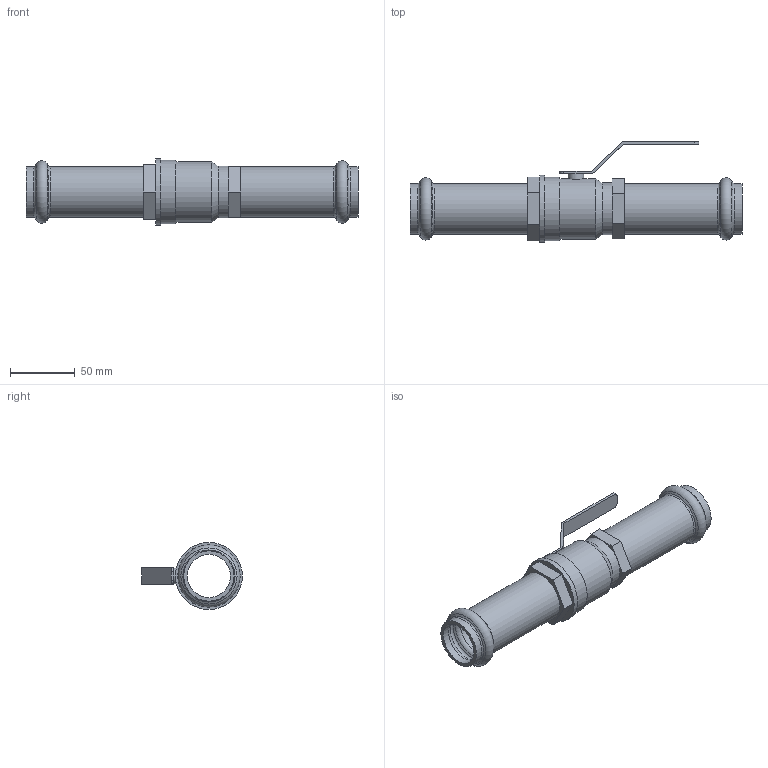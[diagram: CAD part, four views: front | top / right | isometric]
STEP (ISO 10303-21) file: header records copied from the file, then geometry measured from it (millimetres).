
FILE_DESCRIPTION(/* description */ ('VIC-PRESS 304 BRASS BODY BALL VALVE SERIES P589 (P X P)','CAx-IF Rec.Pracs.---Representation and Presentation of Product Manufacturing Information (PMI)---4.0---2014-10-13'),/* implementation_level */ '2;1');
FILE_NAME(/* name */ 'C:\Users\Vjadhav\AppData\Roaming\Autodesk\ApplicationPlugins\Back Up\Victaulic_SS-Vic-Press-TP 304_Valve Ball Brass Body_Series P589 (VP)\Victaulic_SS-Vic-Press-TP 304_Valve Ball Brass Body_Series P589 (VP)_1 (25).stp',/* time_stamp */ '2020-08-12T19:25:26+06:00',/* author */ ('cps_temp'),/* organization */ ('Victaulic'),/* preprocessor_version */ 'ST-DEVELOPER v17.2',/* originating_system */ 'Autodesk Inventor 2019',/* authorisation */ '');
FILE_SCHEMA (('AP242_MANAGED_MODEL_BASED_3D_ENGINEERING_MIM_LF { 1 0 10303 442 1 1 4 }'));
Length unit declared in the file: inch
Products named in the file (1): P589-01.0
Bounding box: 256.79 x 77.99 x 51.84 mm (x, y, z)
Volume: 122204.5 mm3; surface area: 68641.2 mm2
Topology: 1 solids, 1 shells, 72 faces, 219 edges, 156 vertices
Faces by surface type: plane 35, cylinder 16, torus 12, cone 9
Full cylindrical faces by diameter (mm): 11.938 x1, 33.401 x3, 38.938 x4, 40.157 x1, 46.763 x1, 49.303 x1, 51.843 x1
Entity records: 2825 total; most frequent: DIRECTION 515, CARTESIAN_POINT 499, ORIENTED_EDGE 438, EDGE_CURVE 219, AXIS2_PLACEMENT_3D 212, VERTEX_POINT 156, CIRCLE 126, LINE 91
